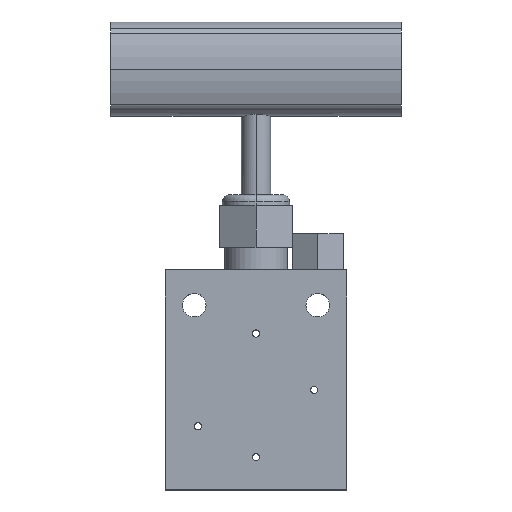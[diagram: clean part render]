
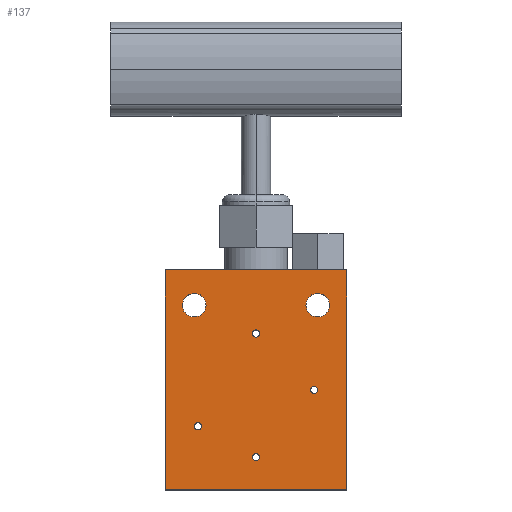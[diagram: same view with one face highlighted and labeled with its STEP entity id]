
A CAD part, top view. The second image highlights one B-rep face of the part: STEP entity #137.
In plain terms, the highlighted planar face has unit normal (0, 0, 1).
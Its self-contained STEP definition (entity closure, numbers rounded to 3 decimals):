
#5 = VERTEX_POINT ( 'NONE', #2074 ) ;
#33 = DIRECTION ( 'NONE',  ( -1., 0., 0. ) ) ;
#41 = ORIENTED_EDGE ( 'NONE', *, *, #3411, .F. ) ;
#88 = CARTESIAN_POINT ( 'NONE',  ( -25., 30.25, 12.5 ) ) ;
#92 = AXIS2_PLACEMENT_3D ( 'NONE', #3576, #1296, #612 ) ;
#117 = CIRCLE ( 'NONE', #425, 1. ) ;
#137 = ADVANCED_FACE ( 'NONE', ( #741, #2435, #1649, #1939, #1886, #3587, #1070 ), #2494, .T. ) ;
#148 = AXIS2_PLACEMENT_3D ( 'NONE', #3277, #3173, #2150 ) ;
#180 = LINE ( 'NONE', #1864, #1156 ) ;
#214 = CIRCLE ( 'NONE', #2791, 1. ) ;
#217 = EDGE_CURVE ( 'NONE', #222, #3153, #3669, .T. ) ;
#218 = CARTESIAN_POINT ( 'NONE',  ( 17., -2.75, 12.5 ) ) ;
#222 = VERTEX_POINT ( 'NONE', #1064 ) ;
#226 = DIRECTION ( 'NONE',  ( 0., 0., 1. ) ) ;
#260 = DIRECTION ( 'NONE',  ( 0., 0., 1. ) ) ;
#330 = VERTEX_POINT ( 'NONE', #3223 ) ;
#380 = CIRCLE ( 'NONE', #1276, 3.25 ) ;
#387 = AXIS2_PLACEMENT_3D ( 'NONE', #1629, #2509, #3066 ) ;
#394 = EDGE_LOOP ( 'NONE', ( #1994, #41 ) ) ;
#425 = AXIS2_PLACEMENT_3D ( 'NONE', #2097, #2177, #1041 ) ;
#454 = CIRCLE ( 'NONE', #92, 1. ) ;
#500 = EDGE_CURVE ( 'NONE', #5, #2154, #1221, .T. ) ;
#502 = DIRECTION ( 'NONE',  ( 1., 0., 0. ) ) ;
#506 = CARTESIAN_POINT ( 'NONE',  ( -16., -12.75, 12.5 ) ) ;
#548 = ORIENTED_EDGE ( 'NONE', *, *, #1962, .F. ) ;
#562 = VERTEX_POINT ( 'NONE', #960 ) ;
#612 = DIRECTION ( 'NONE',  ( 1., 0., 0. ) ) ;
#708 = CARTESIAN_POINT ( 'NONE',  ( -25., 30.25, 12.5 ) ) ;
#715 = CIRCLE ( 'NONE', #1138, 3.25 ) ;
#741 = FACE_BOUND ( 'NONE', #394, .T. ) ;
#753 = CARTESIAN_POINT ( 'NONE',  ( 1., 12.75, 12.5 ) ) ;
#759 = CIRCLE ( 'NONE', #2322, 1. ) ;
#866 = ORIENTED_EDGE ( 'NONE', *, *, #500, .F. ) ;
#950 = AXIS2_PLACEMENT_3D ( 'NONE', #3491, #1510, #33 ) ;
#960 = CARTESIAN_POINT ( 'NONE',  ( -1., -21.25, 12.5 ) ) ;
#1041 = DIRECTION ( 'NONE',  ( 1., 0., 0. ) ) ;
#1064 = CARTESIAN_POINT ( 'NONE',  ( -15., -12.75, 12.5 ) ) ;
#1070 = FACE_OUTER_BOUND ( 'NONE', #3511, .T. ) ;
#1138 = AXIS2_PLACEMENT_3D ( 'NONE', #2497, #1372, #3352 ) ;
#1139 = ORIENTED_EDGE ( 'NONE', *, *, #1915, .F. ) ;
#1152 = EDGE_CURVE ( 'NONE', #2793, #2949, #180, .T. ) ;
#1156 = VECTOR ( 'NONE', #502, 1000. ) ;
#1171 = EDGE_LOOP ( 'NONE', ( #2065, #1607 ) ) ;
#1172 = DIRECTION ( 'NONE',  ( 0., 0., 1. ) ) ;
#1188 = DIRECTION ( 'NONE',  ( 0., 1., 0. ) ) ;
#1203 = VECTOR ( 'NONE', #1489, 1000. ) ;
#1213 = EDGE_CURVE ( 'NONE', #330, #3154, #380, .T. ) ;
#1221 = CIRCLE ( 'NONE', #1819, 1. ) ;
#1227 = ORIENTED_EDGE ( 'NONE', *, *, #217, .F. ) ;
#1228 = CARTESIAN_POINT ( 'NONE',  ( -17., 20.55, 12.5 ) ) ;
#1234 = DIRECTION ( 'NONE',  ( 0., 0., 1. ) ) ;
#1276 = AXIS2_PLACEMENT_3D ( 'NONE', #2711, #3326, #3063 ) ;
#1296 = DIRECTION ( 'NONE',  ( 0., 0., 1. ) ) ;
#1372 = DIRECTION ( 'NONE',  ( 0., 0., 1. ) ) ;
#1379 = CARTESIAN_POINT ( 'NONE',  ( -17., -12.75, 12.5 ) ) ;
#1389 = LINE ( 'NONE', #88, #1203 ) ;
#1449 = DIRECTION ( 'NONE',  ( 1., 0., 0. ) ) ;
#1489 = DIRECTION ( 'NONE',  ( -1., 0., 0. ) ) ;
#1510 = DIRECTION ( 'NONE',  ( 0., 0., 1. ) ) ;
#1532 = CARTESIAN_POINT ( 'NONE',  ( -16., -12.75, 12.5 ) ) ;
#1565 = EDGE_LOOP ( 'NONE', ( #2943, #866 ) ) ;
#1607 = ORIENTED_EDGE ( 'NONE', *, *, #2833, .F. ) ;
#1622 = EDGE_CURVE ( 'NONE', #3153, #222, #759, .T. ) ;
#1629 = CARTESIAN_POINT ( 'NONE',  ( 0., 0., 12.5 ) ) ;
#1649 = FACE_BOUND ( 'NONE', #2026, .T. ) ;
#1651 = AXIS2_PLACEMENT_3D ( 'NONE', #2257, #260, #3678 ) ;
#1697 = CARTESIAN_POINT ( 'NONE',  ( 1., -21.25, 12.5 ) ) ;
#1770 = CIRCLE ( 'NONE', #148, 1. ) ;
#1819 = AXIS2_PLACEMENT_3D ( 'NONE', #2698, #2387, #2162 ) ;
#1837 = CARTESIAN_POINT ( 'NONE',  ( 13.75, 20.55, 12.5 ) ) ;
#1840 = ORIENTED_EDGE ( 'NONE', *, *, #1622, .F. ) ;
#1864 = CARTESIAN_POINT ( 'NONE',  ( -25., -30.25, 12.5 ) ) ;
#1886 = FACE_BOUND ( 'NONE', #3504, .T. ) ;
#1915 = EDGE_CURVE ( 'NONE', #2474, #562, #2237, .T. ) ;
#1939 = FACE_BOUND ( 'NONE', #3333, .T. ) ;
#1962 = EDGE_CURVE ( 'NONE', #562, #2474, #1770, .T. ) ;
#1994 = ORIENTED_EDGE ( 'NONE', *, *, #2017, .F. ) ;
#1996 = ORIENTED_EDGE ( 'NONE', *, *, #1213, .F. ) ;
#2017 = EDGE_CURVE ( 'NONE', #2694, #3184, #454, .T. ) ;
#2026 = EDGE_LOOP ( 'NONE', ( #1139, #548 ) ) ;
#2057 = AXIS2_PLACEMENT_3D ( 'NONE', #506, #226, #3060 ) ;
#2065 = ORIENTED_EDGE ( 'NONE', *, *, #2592, .F. ) ;
#2074 = CARTESIAN_POINT ( 'NONE',  ( 15., -2.75, 12.5 ) ) ;
#2079 = VECTOR ( 'NONE', #3207, 1000. ) ;
#2091 = VERTEX_POINT ( 'NONE', #1837 ) ;
#2097 = CARTESIAN_POINT ( 'NONE',  ( 16., -2.75, 12.5 ) ) ;
#2149 = CARTESIAN_POINT ( 'NONE',  ( 0., 12.75, 12.5 ) ) ;
#2150 = DIRECTION ( 'NONE',  ( 1., 0., 0. ) ) ;
#2154 = VERTEX_POINT ( 'NONE', #218 ) ;
#2162 = DIRECTION ( 'NONE',  ( 1., 0., 0. ) ) ;
#2177 = DIRECTION ( 'NONE',  ( 0., 0., 1. ) ) ;
#2229 = CARTESIAN_POINT ( 'NONE',  ( -25., 30.25, 12.5 ) ) ;
#2237 = CIRCLE ( 'NONE', #1651, 1. ) ;
#2238 = EDGE_CURVE ( 'NONE', #3154, #330, #2845, .T. ) ;
#2240 = AXIS2_PLACEMENT_3D ( 'NONE', #1228, #1172, #1449 ) ;
#2250 = CARTESIAN_POINT ( 'NONE',  ( -20.25, 20.55, 12.5 ) ) ;
#2257 = CARTESIAN_POINT ( 'NONE',  ( 0., -21.25, 12.5 ) ) ;
#2279 = ORIENTED_EDGE ( 'NONE', *, *, #1152, .T. ) ;
#2290 = LINE ( 'NONE', #3426, #3396 ) ;
#2322 = AXIS2_PLACEMENT_3D ( 'NONE', #1532, #1234, #2896 ) ;
#2347 = VERTEX_POINT ( 'NONE', #3523 ) ;
#2387 = DIRECTION ( 'NONE',  ( 0., 0., 1. ) ) ;
#2406 = DIRECTION ( 'NONE',  ( 1., 0., 0. ) ) ;
#2435 = FACE_BOUND ( 'NONE', #1565, .T. ) ;
#2474 = VERTEX_POINT ( 'NONE', #1697 ) ;
#2494 = PLANE ( 'NONE',  #387 ) ;
#2497 = CARTESIAN_POINT ( 'NONE',  ( 17., 20.55, 12.5 ) ) ;
#2509 = DIRECTION ( 'NONE',  ( 0., 0., 1. ) ) ;
#2527 = EDGE_CURVE ( 'NONE', #2949, #2347, #2290, .T. ) ;
#2555 = EDGE_CURVE ( 'NONE', #3222, #2793, #3260, .T. ) ;
#2592 = EDGE_CURVE ( 'NONE', #3275, #2091, #3514, .T. ) ;
#2694 = VERTEX_POINT ( 'NONE', #753 ) ;
#2698 = CARTESIAN_POINT ( 'NONE',  ( 16., -2.75, 12.5 ) ) ;
#2701 = ORIENTED_EDGE ( 'NONE', *, *, #2238, .F. ) ;
#2711 = CARTESIAN_POINT ( 'NONE',  ( -17., 20.55, 12.5 ) ) ;
#2791 = AXIS2_PLACEMENT_3D ( 'NONE', #2149, #3243, #2406 ) ;
#2793 = VERTEX_POINT ( 'NONE', #3091 ) ;
#2833 = EDGE_CURVE ( 'NONE', #2091, #3275, #715, .T. ) ;
#2845 = CIRCLE ( 'NONE', #2240, 3.25 ) ;
#2896 = DIRECTION ( 'NONE',  ( 1., 0., 0. ) ) ;
#2928 = CARTESIAN_POINT ( 'NONE',  ( 20.25, 20.55, 12.5 ) ) ;
#2933 = CARTESIAN_POINT ( 'NONE',  ( 25., -30.25, 12.5 ) ) ;
#2943 = ORIENTED_EDGE ( 'NONE', *, *, #3082, .F. ) ;
#2949 = VERTEX_POINT ( 'NONE', #2933 ) ;
#2951 = EDGE_CURVE ( 'NONE', #2347, #3222, #1389, .T. ) ;
#3060 = DIRECTION ( 'NONE',  ( 1., 0., 0. ) ) ;
#3063 = DIRECTION ( 'NONE',  ( 1., 0., 0. ) ) ;
#3066 = DIRECTION ( 'NONE',  ( 1., 0., 0. ) ) ;
#3080 = CARTESIAN_POINT ( 'NONE',  ( -1., 12.75, 12.5 ) ) ;
#3082 = EDGE_CURVE ( 'NONE', #2154, #5, #117, .T. ) ;
#3091 = CARTESIAN_POINT ( 'NONE',  ( -25., -30.25, 12.5 ) ) ;
#3136 = ORIENTED_EDGE ( 'NONE', *, *, #2527, .T. ) ;
#3153 = VERTEX_POINT ( 'NONE', #1379 ) ;
#3154 = VERTEX_POINT ( 'NONE', #2250 ) ;
#3173 = DIRECTION ( 'NONE',  ( 0., 0., 1. ) ) ;
#3184 = VERTEX_POINT ( 'NONE', #3080 ) ;
#3207 = DIRECTION ( 'NONE',  ( 0., -1., 0. ) ) ;
#3222 = VERTEX_POINT ( 'NONE', #2229 ) ;
#3223 = CARTESIAN_POINT ( 'NONE',  ( -13.75, 20.55, 12.5 ) ) ;
#3243 = DIRECTION ( 'NONE',  ( 0., 0., 1. ) ) ;
#3260 = LINE ( 'NONE', #708, #2079 ) ;
#3275 = VERTEX_POINT ( 'NONE', #2928 ) ;
#3277 = CARTESIAN_POINT ( 'NONE',  ( 0., -21.25, 12.5 ) ) ;
#3326 = DIRECTION ( 'NONE',  ( 0., 0., 1. ) ) ;
#3333 = EDGE_LOOP ( 'NONE', ( #1227, #1840 ) ) ;
#3352 = DIRECTION ( 'NONE',  ( -1., 0., 0. ) ) ;
#3396 = VECTOR ( 'NONE', #1188, 1000. ) ;
#3411 = EDGE_CURVE ( 'NONE', #3184, #2694, #214, .T. ) ;
#3426 = CARTESIAN_POINT ( 'NONE',  ( 25., 30.25, 12.5 ) ) ;
#3433 = ORIENTED_EDGE ( 'NONE', *, *, #2951, .T. ) ;
#3484 = ORIENTED_EDGE ( 'NONE', *, *, #2555, .T. ) ;
#3491 = CARTESIAN_POINT ( 'NONE',  ( 17., 20.55, 12.5 ) ) ;
#3504 = EDGE_LOOP ( 'NONE', ( #1996, #2701 ) ) ;
#3511 = EDGE_LOOP ( 'NONE', ( #3484, #2279, #3136, #3433 ) ) ;
#3514 = CIRCLE ( 'NONE', #950, 3.25 ) ;
#3523 = CARTESIAN_POINT ( 'NONE',  ( 25., 30.25, 12.5 ) ) ;
#3576 = CARTESIAN_POINT ( 'NONE',  ( 0., 12.75, 12.5 ) ) ;
#3587 = FACE_BOUND ( 'NONE', #1171, .T. ) ;
#3669 = CIRCLE ( 'NONE', #2057, 1. ) ;
#3678 = DIRECTION ( 'NONE',  ( 1., 0., 0. ) ) ;
